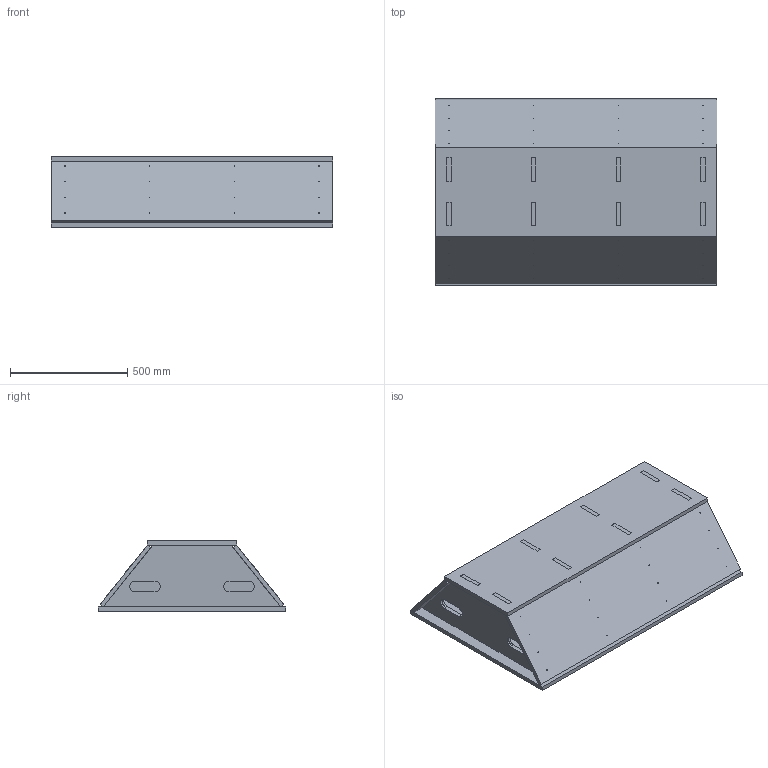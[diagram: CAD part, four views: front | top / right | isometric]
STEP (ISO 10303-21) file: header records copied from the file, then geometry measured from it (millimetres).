
FILE_DESCRIPTION(('Open CASCADE Model'),'2;1');
FILE_NAME('Open CASCADE Shape Model','2026-09-27T09:04:21',('Author'),( 'Open CASCADE'),'Open CASCADE STEP processor 7.9','Open CASCADE 7.9' ,'Unknown');
FILE_SCHEMA(('AUTOMOTIVE_DESIGN { 1 0 10303 214 1 1 1 1 }'));
Length unit declared in the file: millimetre
Products named in the file (9): Trapezoid_300_H300_study; P01_bottom; P02_top; P03_side_negative; P03_side_positive; P04_1; P05_2; P05_3; P04_4
Assembly tree (8 placements, depth 2):
  Trapezoid_300_H300_study
    P01_bottom
    P02_top
    P03_side_negative
    P03_side_positive
    P04_1
    P05_2
    P05_3
    P04_4
Bounding box: 1200 x 800 x 300 mm (x, y, z)
Volume: 49382696.6 mm3; surface area: 5981735.4 mm2
Topology: 8 solids, 8 shells, 440 faces, 1272 edges, 848 vertices
Faces by surface type: plane 408, cylinder 32
Full cylindrical faces by diameter (mm): 2.5 x32
Entity records: 31284 total; most frequent: CARTESIAN_POINT 5305, DIRECTION 4746, LINE 3688, VECTOR 3688, ORIENTED_EDGE 2544, PCURVE 2544, DEFINITIONAL_REPRESENTATION 2544, EDGE_CURVE 1272
